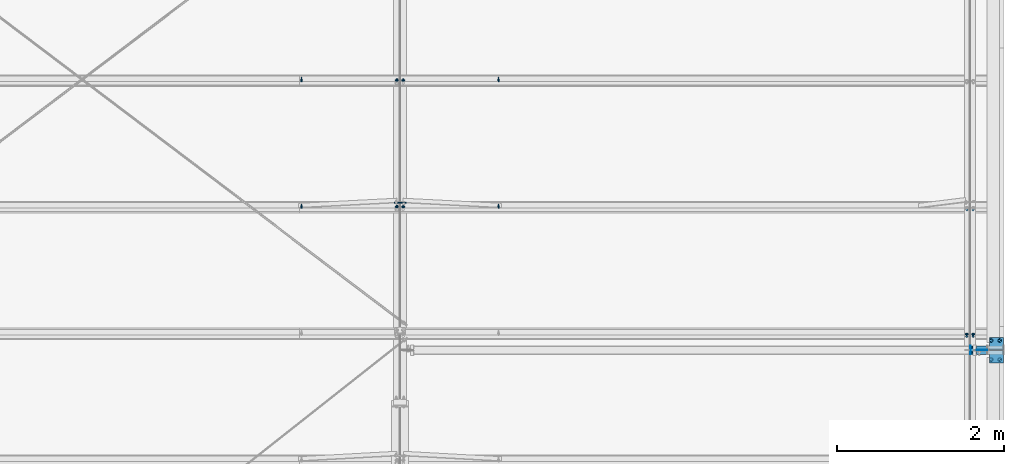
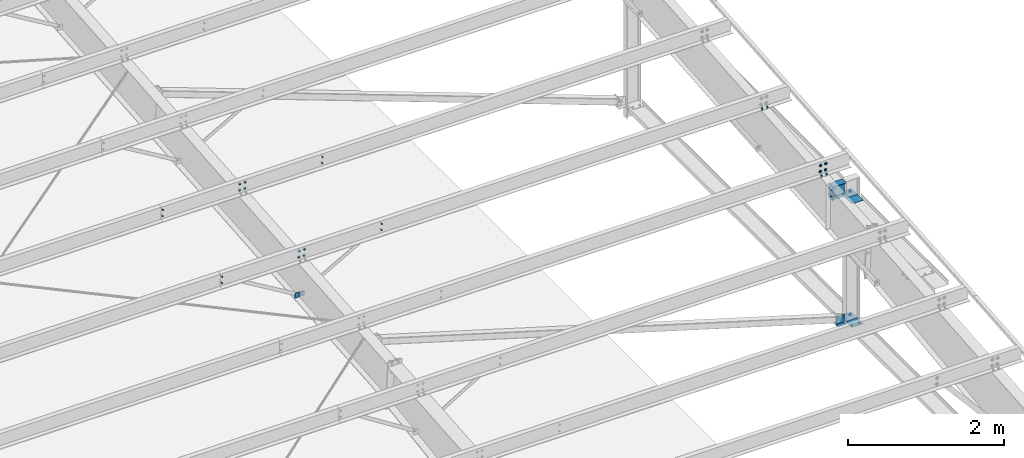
# One storey, part 106 of 185: 16 mechanical fasteners, 10 discrete accessories, 7 elements without a shape of their own.
"""IFC2X3 building model written with IfcOpenShell, lengths in millimetres."""

from ifc_helpers import new_model, si_unit, frame, frame_2d, origin_with_axes, origin_2d_with_axis, place, context, subcontext, project, spatial, polyline, circle_curve, parameter, trimmed, segment, composite_curve, rectangle, circle, i_section, outline, extrude, source, transform, mapped, material, type_object, element, aggregate, save


model = new_model("IFC2X3")

# Units and contexts
model_context = context("Model", 3, precision=1e-05, world=origin_with_axes())
body_context = subcontext(model_context, "Body", "Model", "MODEL_VIEW")
ifc_project = project(units=[si_unit("LENGTHUNIT", "METRE", prefix="MILLI"), si_unit("AREAUNIT", "SQUARE_METRE"), si_unit("VOLUMEUNIT", "CUBIC_METRE"), si_unit("MASSUNIT", "GRAM", prefix="KILO"), si_unit("TIMEUNIT", "SECOND"), si_unit("PLANEANGLEUNIT", "RADIAN"), si_unit("SOLIDANGLEUNIT", "STERADIAN"), si_unit("THERMODYNAMICTEMPERATUREUNIT", "DEGREE_CELSIUS"), si_unit("LUMINOUSINTENSITYUNIT", "LUMEN")], contexts=[model_context])

# Site, building, storey
site_placement = place(None, origin_with_axes())
site = spatial("IfcSite", under=ifc_project, at=site_placement, Name="Undefined", CompositionType="ELEMENT")
building_placement = place(site_placement, origin_with_axes())
building = spatial("IfcBuilding", under=site, at=building_placement, Name="Undefined", CompositionType="ELEMENT")
storey_placement = place(building_placement, origin_with_axes())
storey = spatial("IfcBuildingStorey", under=building, at=storey_placement, Name="Undefined", CompositionType="ELEMENT", Elevation=0.0)

# Assembly, discrete accessories
assembly_1_placement = place(storey_placement, origin_with_axes())
assembly_1 = element("IfcElementAssembly", 1, at=assembly_1_placement, inside=storey, Name="Steel Assembly", AssemblyPlace="NOTDEFINED", PredefinedType="RIGID_FRAME")
ifc_material_1 = material(Name="STEEL/55")
discrete_accessory_type_1 = type_object("IfcDiscreteAccessoryType", Name="XP-38")
discrete_accessory_1_placement = place(assembly_1_placement, frame((44868.703125, 6397.70278800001, 6098.38125), z_axis=(-1.0, 0.0, 0.0), x_axis=(0.0, -1.0, 0.0)))
discrete_accessory_1 = element("IfcDiscreteAccessory", 2, at=discrete_accessory_1_placement, type_object=discrete_accessory_type_1, material=ifc_material_1, Name="XP-38", ObjectType="PL3/16\"X5 7/8\"", context=body_context, shape_type="SweptSolid", body=[
    extrude(rectangle(XDim=4.7625, YDim=168.275, at=origin_2d_with_axis()), frame((149.224999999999, 0.0, 0.0), z_axis=(-1.0, 0.0, 0.0), x_axis=(0.0, -1.0, 0.0)), (0.0, 0.0, 1.0), 149.2),
])
discrete_accessory_2_placement = place(assembly_1_placement, frame((44868.703125, 6403.89721200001, 6098.38125), z_axis=(-1.0, 0.0, 0.0), x_axis=(0.0, 1.0, 0.0)))
discrete_accessory_2 = element("IfcDiscreteAccessory", 3, at=discrete_accessory_2_placement, type_object=discrete_accessory_type_1, material=ifc_material_1, Name="XP-38", ObjectType="PL3/16\"X5 7/8\"", context=body_context, shape_type="SweptSolid", body=[
    extrude(rectangle(XDim=4.7625, YDim=168.275, at=origin_2d_with_axis()), frame((149.224999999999, 0.0, 0.0), z_axis=(-1.0, 0.0, 0.0), x_axis=(0.0, -1.0, 0.0)), (0.0, 0.0, 1.0), 149.2),
])
discrete_accessory_3_placement = place(assembly_1_placement, frame((44868.7031250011, 6397.70278800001, 4167.98125000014), z_axis=(-1.0, 0.0, 0.0), x_axis=(0.0, -1.0, 0.0)))
discrete_accessory_3 = element("IfcDiscreteAccessory", 4, at=discrete_accessory_3_placement, type_object=discrete_accessory_type_1, material=ifc_material_1, Name="XP-38", ObjectType="PL3/16\"X5 7/8\"", context=body_context, shape_type="SweptSolid", body=[
    extrude(rectangle(XDim=4.7625, YDim=168.275, at=origin_2d_with_axis()), frame((149.224999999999, 0.0, 0.0), z_axis=(-1.0, 0.0, 0.0), x_axis=(0.0, -1.0, 0.0)), (0.0, 0.0, 1.0), 149.2),
])
discrete_accessory_4_placement = place(assembly_1_placement, frame((44868.7031250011, 6403.89721200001, 4167.98125000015), z_axis=(-1.0, 0.0, 0.0), x_axis=(0.0, 1.0, 0.0)))
discrete_accessory_4 = element("IfcDiscreteAccessory", 5, at=discrete_accessory_4_placement, type_object=discrete_accessory_type_1, material=ifc_material_1, Name="XP-38", ObjectType="PL3/16\"X5 7/8\"", context=body_context, shape_type="SweptSolid", body=[
    extrude(rectangle(XDim=4.7625, YDim=168.275, at=origin_2d_with_axis()), frame((149.224999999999, 0.0, 0.0), z_axis=(-1.0, 0.0, 0.0), x_axis=(0.0, -1.0, 0.0)), (0.0, 0.0, 1.0), 149.2),
])
discrete_accessory_type_2 = type_object("IfcDiscreteAccessoryType", Name="Stiff")
discrete_accessory_5_placement = place(assembly_1_placement, frame((44694.475, 6451.6, 4167.98125), z_axis=(-1.0, 0.0, 0.0), x_axis=(0.0, -1.0, 0.0)))
discrete_accessory_5 = element("IfcDiscreteAccessory", 6, at=discrete_accessory_5_placement, type_object=discrete_accessory_type_2, material=ifc_material_1, Name="Stiff", ObjectType="FL1/4\"X4\"", context=body_context, shape_type="SweptSolid", body=[
    extrude(rectangle(XDim=6.35, YDim=127.0, at=origin_2d_with_axis()), frame((101.599998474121, 0.0, 0.0), z_axis=(-1.0, 0.0, 0.0), x_axis=(0.0, -1.0, 0.0)), (0.0, 0.0, 1.0), 101.6),
])

# Assembly, mechanical fasteners
assembly_2_placement = place(storey_placement, origin_with_axes())
assembly_2 = element("IfcElementAssembly", 7, at=assembly_2_placement, inside=storey, Name="Steel Assembly", AssemblyPlace="NOTDEFINED", PredefinedType="RIGID_FRAME")
ifc_material_2 = material(Name="Undefined")
discrete_accessory_type_3 = type_object("IfcDiscreteAccessoryType", Name="Bolt assembly")
shared_shape_1 = source(origin_with_axes(), body_context, "Body", "SweptSolid", [
    extrude(circle(Radius=7.14374971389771, at=origin_2d_with_axis()), frame((0.0, -1.59000001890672, 0.0), z_axis=(0.0, 1.0, 0.0), x_axis=(1.0, 0.0, 0.0)), (0.0, 0.0, 1.0), 3.3),
    extrude(circle(Radius=13.4937496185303, at=origin_2d_with_axis()), frame((0.0, -5.5587500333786, 0.0), z_axis=(0.0, 1.0, 0.0), x_axis=(1.0, 0.0, 0.0)), (0.0, 0.0, 1.0), 4.0),
    extrude(circle(Radius=22.2250003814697, at=origin_2d_with_axis()), frame((0.0, 1.5900000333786, 0.0), z_axis=(0.0, 1.0, 0.0), x_axis=(1.0, 0.0, 0.0)), (0.0, 0.0, 1.0), 7.9),
    extrude(outline(polyline([(12.8316099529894, 0.0), (6.4158049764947, 11.1125001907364), (-6.4158049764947, 11.1125001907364), (-12.8316099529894, 0.0), (-6.4158049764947, -11.1125001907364), (6.4158049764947, -11.1125001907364), (12.8316099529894, 0.0)])), frame((0.0, 9.5275000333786, 0.0), z_axis=(0.0, 1.0, 0.0), x_axis=(1.0, 0.0, 0.0)), (0.0, 0.0, 1.0), 12.3),
])
mechanical_fastener_1_placement = place(assembly_2_placement, frame((44513.5, 6590.05757436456, 6594.19538193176), z_axis=(-1.0, 0.0, 0.0), x_axis=(0.0, 0.0830454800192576, -0.996545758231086)))
mechanical_fastener_1 = element("IfcMechanicalFastener", 8, at=mechanical_fastener_1_placement, type_object=discrete_accessory_type_3, material=ifc_material_2, Name="Bolt assembly", NominalDiameter=12.6999998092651, NominalLength=38.0999984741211, context=body_context, shape_type="MappedRepresentation", body=[
    mapped(shared_shape_1, transform((0.0, 0.0, 0.0))),
    mapped(shared_shape_1, transform((101.599998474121, 0.0, 0.0))),
])
mechanical_fastener_2_placement = place(assembly_2_placement, frame((44589.7, 6590.05757436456, 6594.19538193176), z_axis=(-1.0, 0.0, 0.0), x_axis=(0.0, 0.0830454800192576, -0.996545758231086)))
mechanical_fastener_2 = element("IfcMechanicalFastener", 9, at=mechanical_fastener_2_placement, type_object=discrete_accessory_type_3, material=ifc_material_2, Name="Bolt assembly", NominalDiameter=12.6999998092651, NominalLength=38.0999984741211, context=body_context, shape_type="MappedRepresentation", body=[
    mapped(shared_shape_1, transform((0.0, 0.0, 0.0))),
    mapped(shared_shape_1, transform((101.599998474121, 0.0, 0.0))),
])

# Assembly, mechanical fastener
assembly_3_placement = place(storey_placement, origin_with_axes())
assembly_3 = element("IfcElementAssembly", 10, at=assembly_3_placement, inside=storey, Name="Steel Assembly", AssemblyPlace="NOTDEFINED", PredefinedType="RIGID_FRAME")
mechanical_fastener_3_placement = place(assembly_3_placement, frame((37757.1, 8108.79330990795, 6720.75669348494), z_axis=(1.0, 0.0, 0.0), x_axis=(0.0, 0.0830454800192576, -0.996545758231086)))
mechanical_fastener_3 = element("IfcMechanicalFastener", 11, at=mechanical_fastener_3_placement, type_object=discrete_accessory_type_3, material=ifc_material_2, Name="Bolt assembly", NominalDiameter=12.6999998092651, NominalLength=38.0999984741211, context=body_context, shape_type="MappedRepresentation", body=[
    mapped(shared_shape_1, transform((0.0, 0.0, 0.0))),
    mapped(shared_shape_1, transform((101.599998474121, 0.0, 0.0))),
])
aggregate(assembly_3, [mechanical_fastener_3])

assembly_4_placement = place(storey_placement, origin_with_axes())
assembly_4 = element("IfcElementAssembly", 12, at=assembly_4_placement, inside=storey, Name="Steel Assembly", AssemblyPlace="NOTDEFINED", PredefinedType="RIGID_FRAME")
mechanical_fastener_4_placement = place(assembly_4_placement, frame((37680.9, 8108.79330990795, 6720.75669348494), z_axis=(1.0, 0.0, 0.0), x_axis=(0.0, 0.0830454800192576, -0.996545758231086)))
mechanical_fastener_4 = element("IfcMechanicalFastener", 13, at=mechanical_fastener_4_placement, type_object=discrete_accessory_type_3, material=ifc_material_2, Name="Bolt assembly", NominalDiameter=12.6999998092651, NominalLength=38.0999984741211, context=body_context, shape_type="MappedRepresentation", body=[
    mapped(shared_shape_1, transform((0.0, 0.0, 0.0))),
    mapped(shared_shape_1, transform((101.599998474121, 0.0, 0.0))),
])

assembly_5_placement = place(storey_placement, origin_with_axes())
assembly_5 = element("IfcElementAssembly", 14, at=assembly_5_placement, inside=storey, Name="Steel Assembly", AssemblyPlace="NOTDEFINED", PredefinedType="RIGID_FRAME")
mechanical_fastener_5_placement = place(assembly_5_placement, frame((37757.1, 9627.52904545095, 6847.31800503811), z_axis=(1.0, 0.0, 0.0), x_axis=(0.0, 0.0830454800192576, -0.996545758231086)))
mechanical_fastener_5 = element("IfcMechanicalFastener", 15, at=mechanical_fastener_5_placement, type_object=discrete_accessory_type_3, material=ifc_material_2, Name="Bolt assembly", NominalDiameter=12.6999998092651, NominalLength=38.0999984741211, context=body_context, shape_type="MappedRepresentation", body=[
    mapped(shared_shape_1, transform((0.0, 0.0, 0.0))),
    mapped(shared_shape_1, transform((101.599998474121, 0.0, 0.0))),
])
aggregate(assembly_5, [mechanical_fastener_5])

assembly_6_placement = place(storey_placement, origin_with_axes())
assembly_6 = element("IfcElementAssembly", 16, at=assembly_6_placement, inside=storey, Name="Steel Assembly", AssemblyPlace="NOTDEFINED", PredefinedType="RIGID_FRAME")
mechanical_fastener_6_placement = place(assembly_6_placement, frame((37680.9, 9627.52904545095, 6847.31800503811), z_axis=(1.0, 0.0, 0.0), x_axis=(0.0, 0.0830454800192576, -0.996545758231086)))
mechanical_fastener_6 = element("IfcMechanicalFastener", 17, at=mechanical_fastener_6_placement, type_object=discrete_accessory_type_3, material=ifc_material_2, Name="Bolt assembly", NominalDiameter=12.6999998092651, NominalLength=38.0999984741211, context=body_context, shape_type="MappedRepresentation", body=[
    mapped(shared_shape_1, transform((0.0, 0.0, 0.0))),
    mapped(shared_shape_1, transform((101.599998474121, 0.0, 0.0))),
])

# Discrete accessory
discrete_accessory_type_4 = type_object("IfcDiscreteAccessoryType", Name="PLATE")
discrete_accessory_6_placement = place(assembly_1_placement, frame((44757.975, 6400.8, 4234.65624999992), z_axis=(0.0, 0.0, 1.0), x_axis=(-1.0, 0.0, 0.0)))
discrete_accessory_6 = element("IfcDiscreteAccessory", 18, at=discrete_accessory_6_placement, type_object=discrete_accessory_type_4, material=ifc_material_1, Name="PLATE", ObjectType="FL1/4\"X5\"", context=body_context, shape_type="SweptSolid", body=[
    extrude(rectangle(XDim=6.35, YDim=127.0, at=origin_2d_with_axis()), frame((127.000000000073, 3.63797855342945e-12, 7.27595761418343e-12), z_axis=(-1.0, 0.0, 0.0), x_axis=(0.0, -1.0, 0.0)), (0.0, 0.0, 1.0), 127.0),
])

discrete_accessory_7_placement = place(assembly_1_placement, frame((44558.148438, 6400.8, 6389.6875), z_axis=(0.0, 1.0, 0.0), x_axis=(0.0, 0.0, -1.0)))
discrete_accessory_7 = element("IfcDiscreteAccessory", 19, at=discrete_accessory_7_placement, type_object=discrete_accessory_type_4, material=ifc_material_1, Name="PLATE", ObjectType="FL3/8\"X4\"", context=body_context, shape_type="SweptSolid", body=[
    extrude(rectangle(XDim=9.525, YDim=101.6, at=origin_2d_with_axis()), frame((225.424999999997, 0.0, 0.0), z_axis=(-1.0, 0.0, 0.0), x_axis=(0.0, -1.0, 0.0)), (0.0, 0.0, 1.0), 225.4),
])

# Assembly, discrete accessories
assembly_7_placement = place(storey_placement, origin_with_axes())
assembly_7 = element("IfcElementAssembly", 20, at=assembly_7_placement, inside=storey, Name="Steel Assembly", AssemblyPlace="NOTDEFINED", PredefinedType="RIGID_FRAME")
discrete_accessory_type_5 = type_object("IfcDiscreteAccessoryType", Name="FLANGE BRACE FLIP")
discrete_accessory_8_placement = place(assembly_7_placement, frame((37720.70815, 8167.47255645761, 5996.03869125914), z_axis=(0.0, -0.0830454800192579, 0.996545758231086), x_axis=(1.0, 0.0, 0.0)))
discrete_accessory_8 = element("IfcDiscreteAccessory", 21, at=discrete_accessory_8_placement, type_object=discrete_accessory_type_5, material=ifc_material_1, Name="FLANGE BRACE FLIP", ObjectType="PL1/8\"X2 3/4\"", context=body_context, shape_type="SweptSolid", body=[
    extrude(rectangle(XDim=3.416, YDim=85.725, at=origin_2d_with_axis()), frame((69.8499999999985, 0.0, 0.0), z_axis=(-1.0, 0.0, 0.0), x_axis=(0.0, -1.0, 0.0)), (0.0, 0.0, 1.0), 69.8),
])
discrete_accessory_9_placement = place(assembly_7_placement, frame((37717.29185, 8167.47255645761, 5996.03869125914), z_axis=(0.0, -0.0830454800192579, 0.996545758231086), x_axis=(-1.0, 0.0, 0.0)))
discrete_accessory_9 = element("IfcDiscreteAccessory", 22, at=discrete_accessory_9_placement, type_object=discrete_accessory_type_5, material=ifc_material_1, Name="FLANGE BRACE FLIP", ObjectType="PL1/8\"X2 3/4\"", context=body_context, shape_type="SweptSolid", body=[
    extrude(rectangle(XDim=3.416, YDim=85.725, at=origin_2d_with_axis()), frame((69.8499999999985, 0.0, 0.0), z_axis=(-1.0, 0.0, 0.0), x_axis=(0.0, -1.0, 0.0)), (0.0, 0.0, 1.0), 69.8),
])
aggregate(assembly_7, [discrete_accessory_8, discrete_accessory_9])

# Mechanical fastener
shared_shape_2 = source(origin_with_axes(), body_context, "Body", "SweptSolid", [
    extrude(circle(Radius=7.14374971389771, at=origin_2d_with_axis()), frame((0.0, -1.69000003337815, 0.0), z_axis=(0.0, 1.0, 0.0), x_axis=(1.0, 0.0, 0.0)), (0.0, 0.0, 1.0), 3.3),
    extrude(outline(composite_curve([segment(polyline([(-5.953125, 7.14374971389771), (5.953125, 7.14374971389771)]), True, "CONTINUOUS"), segment(trimmed(circle_curve(frame_2d((5.953125, 0.0), x_axis=(0.0, 1.0)), 7.1), [parameter(0.0)], [parameter(3.14159265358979)], False, "PARAMETER"), True, "CONTINUOUS"), segment(polyline([(5.953125, -7.14374971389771), (-5.953125, -7.14374971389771)]), True, "CONTINUOUS"), segment(trimmed(circle_curve(frame_2d((-5.953125, 0.0), x_axis=(0.0, -1.0)), 7.1), [parameter(0.0)], [parameter(3.14159265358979)], False, "PARAMETER"), True, "DISCONTINUOUS")], self_intersect=False)), frame((0.0, -4.66250000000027, 0.0), z_axis=(0.0, 1.0, 0.0), x_axis=(1.0, 0.0, 0.0)), (0.0, 0.0, 1.0), 4.8),
    extrude(outline(polyline([(10.9985221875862, 0.0), (5.4992610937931, 9.52499961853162), (-5.4992610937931, 9.52499961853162), (-10.9985221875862, 0.0), (-5.4992610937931, -9.52499961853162), (5.4992610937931, -9.52499961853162), (10.9985221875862, 0.0)])), frame((0.0, -18.2562496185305, 0.0), z_axis=(0.0, 1.0, 0.0), x_axis=(1.0, 0.0, 0.0)), (0.0, 0.0, 1.0), 9.5),
    extrude(circle(Radius=6.34999990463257, at=origin_2d_with_axis()), frame((0.0, -8.73125000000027, 0.0), z_axis=(0.0, 1.0, 0.0), x_axis=(1.0, 0.0, 0.0)), (0.0, 0.0, 1.0), 38.1),
    extrude(circle(Radius=13.4937496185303, at=origin_2d_with_axis()), frame((0.0, -8.73125000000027, 0.0), z_axis=(0.0, 1.0, 0.0), x_axis=(1.0, 0.0, 0.0)), (0.0, 0.0, 1.0), 4.0),
    extrude(circle(Radius=22.2250003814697, at=origin_2d_with_axis()), frame((0.0, 1.5900000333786, 0.0), z_axis=(0.0, 1.0, 0.0), x_axis=(1.0, 0.0, 0.0)), (0.0, 0.0, 1.0), 7.9),
    extrude(outline(polyline([(12.8316099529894, 0.0), (6.4158049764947, 11.1125001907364), (-6.4158049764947, 11.1125001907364), (-12.8316099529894, 0.0), (-6.4158049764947, -11.1125001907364), (6.4158049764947, -11.1125001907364), (12.8316099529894, 0.0)])), frame((0.0, 9.5275000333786, 0.0), z_axis=(0.0, 1.0, 0.0), x_axis=(1.0, 0.0, 0.0)), (0.0, 0.0, 1.0), 12.3),
])
mechanical_fastener_7_placement = place(assembly_1_placement, frame((44907.2, 6515.10000000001, 6096.0), z_axis=(0.0, -1.0, 0.0), x_axis=(-1.0, 0.0, 0.0)))
mechanical_fastener_7 = element("IfcMechanicalFastener", 23, at=mechanical_fastener_7_placement, type_object=discrete_accessory_type_3, material=ifc_material_2, Name="Bolt assembly", NominalDiameter=12.6999998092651, NominalLength=38.0999984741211, context=body_context, shape_type="MappedRepresentation", body=[
    mapped(shared_shape_2, transform((0.0, 0.0, 0.0))),
    mapped(shared_shape_2, transform((101.599998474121, 0.0, 0.0))),
])

shared_shape_3 = source(origin_with_axes(), body_context, "Body", "SweptSolid", [
    extrude(circle(Radius=7.14374971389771, at=origin_2d_with_axis()), frame((0.0, -1.69000003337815, 0.0), z_axis=(0.0, 1.0, 0.0), x_axis=(1.0, 0.0, 0.0)), (0.0, 0.0, 1.0), 3.3),
    extrude(outline(composite_curve([segment(polyline([(-5.953125, 7.14374971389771), (5.953125, 7.14374971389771)]), True, "CONTINUOUS"), segment(trimmed(circle_curve(frame_2d((5.953125, 0.0), x_axis=(0.0, 1.0)), 7.1), [parameter(0.0)], [parameter(3.14159265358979)], False, "PARAMETER"), True, "CONTINUOUS"), segment(polyline([(5.953125, -7.14374971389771), (-5.953125, -7.14374971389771)]), True, "CONTINUOUS"), segment(trimmed(circle_curve(frame_2d((-5.953125, 0.0), x_axis=(0.0, -1.0)), 7.1), [parameter(0.0)], [parameter(3.14159265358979)], False, "PARAMETER"), True, "DISCONTINUOUS")], self_intersect=False)), frame((0.0, -4.66250000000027, 0.0), z_axis=(0.0, 1.0, 0.0), x_axis=(1.0, 0.0, 0.0)), (0.0, 0.0, 1.0), 4.8),
    extrude(outline(polyline([(10.9985221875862, 0.0), (5.4992610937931, 9.52499961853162), (-5.4992610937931, 9.52499961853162), (-10.9985221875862, 0.0), (-5.4992610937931, -9.52499961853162), (5.4992610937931, -9.52499961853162), (10.9985221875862, 0.0)])), frame((0.0, -18.2562496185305, 0.0), z_axis=(0.0, 1.0, 0.0), x_axis=(1.0, 0.0, 0.0)), (0.0, 0.0, 1.0), 9.5),
    extrude(circle(Radius=6.34999990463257, at=origin_2d_with_axis()), frame((0.0, -8.73125000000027, 0.0), z_axis=(0.0, 1.0, 0.0), x_axis=(1.0, 0.0, 0.0)), (0.0, 0.0, 1.0), 38.1),
    extrude(circle(Radius=13.4937496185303, at=origin_2d_with_axis()), frame((0.0, -8.73125000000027, 0.0), z_axis=(0.0, 1.0, 0.0), x_axis=(1.0, 0.0, 0.0)), (0.0, 0.0, 1.0), 4.0),
    extrude(circle(Radius=22.2250003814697, at=origin_2d_with_axis()), frame((0.0, 1.5900000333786, 0.0), z_axis=(0.0, 1.0, 0.0), x_axis=(1.0, 0.0, 0.0)), (0.0, 0.0, 1.0), 7.9),
    extrude(outline(polyline([(12.8316099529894, 0.0), (6.4158049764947, 11.1125001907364), (-6.4158049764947, 11.1125001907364), (-12.8316099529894, 0.0), (-6.4158049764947, -11.1125001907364), (6.4158049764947, -11.1125001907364), (12.8316099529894, 0.0)])), frame((0.0, 9.5275000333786, 0.0), z_axis=(0.0, 1.0, 0.0), x_axis=(1.0, 0.0, 0.0)), (0.0, 0.0, 1.0), 12.3),
])
mechanical_fastener_8_placement = place(assembly_1_placement, frame((44907.2, 6286.50000000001, 4165.6), z_axis=(0.0, -1.0, 0.0), x_axis=(-1.0, 0.0, 0.0)))
mechanical_fastener_8 = element("IfcMechanicalFastener", 24, at=mechanical_fastener_8_placement, type_object=discrete_accessory_type_3, material=ifc_material_2, Name="Bolt assembly", NominalDiameter=12.6999998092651, NominalLength=38.0999984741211, context=body_context, shape_type="MappedRepresentation", body=[
    mapped(shared_shape_3, transform((0.0, 0.0, 0.0))),
    mapped(shared_shape_3, transform((101.599998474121, 0.0, 0.0))),
])

shared_shape_4 = source(origin_with_axes(), body_context, "Body", "SweptSolid", [
    extrude(circle(Radius=7.14374971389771, at=origin_2d_with_axis()), frame((0.0, -1.69000003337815, 0.0), z_axis=(0.0, 1.0, 0.0), x_axis=(1.0, 0.0, 0.0)), (0.0, 0.0, 1.0), 3.3),
    extrude(outline(composite_curve([segment(polyline([(-5.953125, 7.14374971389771), (5.953125, 7.14374971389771)]), True, "CONTINUOUS"), segment(trimmed(circle_curve(frame_2d((5.953125, 0.0), x_axis=(0.0, 1.0)), 7.1), [parameter(0.0)], [parameter(3.14159265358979)], False, "PARAMETER"), True, "CONTINUOUS"), segment(polyline([(5.953125, -7.14374971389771), (-5.953125, -7.14374971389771)]), True, "CONTINUOUS"), segment(trimmed(circle_curve(frame_2d((-5.953125, 0.0), x_axis=(0.0, -1.0)), 7.1), [parameter(0.0)], [parameter(3.14159265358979)], False, "PARAMETER"), True, "DISCONTINUOUS")], self_intersect=False)), frame((0.0, -4.66250000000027, 0.0), z_axis=(0.0, 1.0, 0.0), x_axis=(1.0, 0.0, 0.0)), (0.0, 0.0, 1.0), 4.8),
    extrude(outline(polyline([(10.9985221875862, 0.0), (5.4992610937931, 9.52499961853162), (-5.4992610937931, 9.52499961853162), (-10.9985221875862, 0.0), (-5.4992610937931, -9.52499961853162), (5.4992610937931, -9.52499961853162), (10.9985221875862, 0.0)])), frame((0.0, -18.2562496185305, 0.0), z_axis=(0.0, 1.0, 0.0), x_axis=(1.0, 0.0, 0.0)), (0.0, 0.0, 1.0), 9.5),
    extrude(circle(Radius=6.34999990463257, at=origin_2d_with_axis()), frame((0.0, -8.73125000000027, 0.0), z_axis=(0.0, 1.0, 0.0), x_axis=(1.0, 0.0, 0.0)), (0.0, 0.0, 1.0), 38.1),
    extrude(circle(Radius=13.4937496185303, at=origin_2d_with_axis()), frame((0.0, -8.73125000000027, 0.0), z_axis=(0.0, 1.0, 0.0), x_axis=(1.0, 0.0, 0.0)), (0.0, 0.0, 1.0), 4.0),
    extrude(circle(Radius=22.2250003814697, at=origin_2d_with_axis()), frame((0.0, 1.5900000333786, 0.0), z_axis=(0.0, 1.0, 0.0), x_axis=(1.0, 0.0, 0.0)), (0.0, 0.0, 1.0), 7.9),
    extrude(outline(polyline([(12.8316099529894, 0.0), (6.4158049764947, 11.1125001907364), (-6.4158049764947, 11.1125001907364), (-12.8316099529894, 0.0), (-6.4158049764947, -11.1125001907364), (6.4158049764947, -11.1125001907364), (12.8316099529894, 0.0)])), frame((0.0, 9.5275000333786, 0.0), z_axis=(0.0, 1.0, 0.0), x_axis=(1.0, 0.0, 0.0)), (0.0, 0.0, 1.0), 12.3),
])
mechanical_fastener_9_placement = place(assembly_1_placement, frame((44907.2, 6515.10000000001, 4165.6), z_axis=(0.0, -1.0, 0.0), x_axis=(-1.0, 0.0, 0.0)))
mechanical_fastener_9 = element("IfcMechanicalFastener", 25, at=mechanical_fastener_9_placement, type_object=discrete_accessory_type_3, material=ifc_material_2, Name="Bolt assembly", NominalDiameter=12.6999998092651, NominalLength=38.0999984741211, context=body_context, shape_type="MappedRepresentation", body=[
    mapped(shared_shape_4, transform((0.0, 0.0, 0.0))),
    mapped(shared_shape_4, transform((101.599998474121, 0.0, 0.0))),
])

shared_shape_5 = source(origin_with_axes(), body_context, "Body", "SweptSolid", [
    extrude(circle(Radius=7.14374971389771, at=origin_2d_with_axis()), frame((0.0, -0.1, 0.0), z_axis=(0.0, 1.0, 0.0), x_axis=(1.0, 0.0, 0.0)), (0.0, 0.0, 1.0), 6.5),
    extrude(circle(Radius=7.14374971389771, at=origin_2d_with_axis()), frame((0.0, -3.08000006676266, 0.0), z_axis=(0.0, 1.0, 0.0), x_axis=(1.0, 0.0, 0.0)), (0.0, 0.0, 1.0), 3.2),
    extrude(outline(polyline([(10.9985221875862, 0.0), (5.4992610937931, 9.52499961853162), (-5.4992610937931, 9.52499961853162), (-10.9985221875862, 0.0), (-5.4992610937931, -9.52499961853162), (5.4992610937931, -9.52499961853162), (10.9985221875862, 0.0)])), frame((0.0, -16.6737496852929, 0.0), z_axis=(0.0, 1.0, 0.0), x_axis=(1.0, 0.0, 0.0)), (0.0, 0.0, 1.0), 9.5),
    extrude(circle(Radius=6.34999990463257, at=origin_2d_with_axis()), frame((0.0, -7.14875006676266, 0.0), z_axis=(0.0, 1.0, 0.0), x_axis=(1.0, 0.0, 0.0)), (0.0, 0.0, 1.0), 38.1),
    extrude(circle(Radius=13.4937496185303, at=origin_2d_with_axis()), frame((0.0, -7.14875006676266, 0.0), z_axis=(0.0, 1.0, 0.0), x_axis=(1.0, 0.0, 0.0)), (0.0, 0.0, 1.0), 4.0),
    extrude(outline(polyline([(12.8316099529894, 0.0), (6.4158049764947, 11.1125001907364), (-6.4158049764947, 11.1125001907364), (-12.8316099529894, 0.0), (-6.4158049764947, -11.1125001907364), (6.4158049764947, -11.1125001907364), (12.8316099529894, 0.0)])), frame((0.0, 6.35000000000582, 0.0), z_axis=(0.0, 1.0, 0.0), x_axis=(1.0, 0.0, 0.0)), (0.0, 0.0, 1.0), 12.3),
])
mechanical_fastener_10_placement = place(assembly_2_placement, frame((44551.6, 6564.74531210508, 6439.15777559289), z_axis=(1.0, 0.0, 0.0), x_axis=(0.0, -0.996545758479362, -0.0830454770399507)))
mechanical_fastener_10 = element("IfcMechanicalFastener", 26, at=mechanical_fastener_10_placement, type_object=discrete_accessory_type_3, material=ifc_material_2, Name="Bolt assembly", NominalDiameter=12.6999998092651, NominalLength=38.0999984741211, context=body_context, shape_type="MappedRepresentation", body=[
    mapped(shared_shape_5, transform((0.0, 0.0, -38.0999984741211))),
    mapped(shared_shape_5, transform((0.0, 0.0, 38.0999984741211))),
])

aggregate(assembly_2, [mechanical_fastener_10, mechanical_fastener_1, mechanical_fastener_2])

mechanical_fastener_11_placement = place(assembly_4_placement, frame((44551.6, 8083.48104764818, 6565.71908714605), z_axis=(1.0, 0.0, 0.0), x_axis=(0.0, -0.996545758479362, -0.0830454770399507)))
mechanical_fastener_11 = element("IfcMechanicalFastener", 27, at=mechanical_fastener_11_placement, type_object=discrete_accessory_type_3, material=ifc_material_2, Name="Bolt assembly", NominalDiameter=12.6999998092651, NominalLength=38.0999984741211, context=body_context, shape_type="MappedRepresentation", body=[
    mapped(shared_shape_5, transform((0.0, 0.0, -38.0999984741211))),
    mapped(shared_shape_5, transform((0.0, 0.0, 38.0999984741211))),
])

shared_shape_6 = source(origin_with_axes(), body_context, "Body", "SweptSolid", [
    extrude(circle(Radius=7.14374971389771, at=origin_2d_with_axis()), frame((0.0, -1.4900000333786, 0.0), z_axis=(0.0, 1.0, 0.0), x_axis=(1.0, 0.0, 0.0)), (0.0, 0.0, 1.0), 3.2),
    extrude(circle(Radius=7.14374971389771, at=origin_2d_with_axis()), frame((0.0, -1.69000003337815, 0.0), z_axis=(0.0, 1.0, 0.0), x_axis=(1.0, 0.0, 0.0)), (0.0, 0.0, 1.0), 3.3),
    extrude(outline(polyline([(10.9985221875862, 0.0), (5.4992610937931, 9.52499961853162), (-5.4992610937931, 9.52499961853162), (-10.9985221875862, 0.0), (-5.4992610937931, -9.52499961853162), (5.4992610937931, -9.52499961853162), (10.9985221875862, 0.0)])), frame((0.0, -11.1149996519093, 0.0), z_axis=(0.0, 1.0, 0.0), x_axis=(1.0, 0.0, 0.0)), (0.0, 0.0, 1.0), 9.5),
    extrude(circle(Radius=6.34999990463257, at=origin_2d_with_axis()), frame((0.0, -1.59000001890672, 0.0), z_axis=(0.0, 1.0, 0.0), x_axis=(1.0, 0.0, 0.0)), (0.0, 0.0, 1.0), 38.1),
    extrude(outline(polyline([(12.8316099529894, 0.0), (6.4158049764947, 11.1125001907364), (-6.4158049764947, 11.1125001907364), (-12.8316099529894, 0.0), (-6.4158049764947, -11.1125001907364), (6.4158049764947, -11.1125001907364), (12.8316099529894, 0.0)])), frame((0.0, 1.5900000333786, 0.0), z_axis=(0.0, 1.0, 0.0), x_axis=(1.0, 0.0, 0.0)), (0.0, 0.0, 1.0), 12.3),
])
mechanical_fastener_12_placement = place(assembly_4_placement, frame((38900.1, 8108.79330990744, 6720.75669347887), z_axis=(1.0, 0.0, 0.0), x_axis=(0.0, 0.0830454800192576, -0.996545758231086)))
mechanical_fastener_12 = element("IfcMechanicalFastener", 28, at=mechanical_fastener_12_placement, type_object=discrete_accessory_type_3, material=ifc_material_2, Name="Bolt assembly", NominalDiameter=12.6999998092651, NominalLength=38.0999984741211, context=body_context, shape_type="MappedRepresentation", body=[
    mapped(shared_shape_6, transform((0.0, 0.0, 0.0))),
    mapped(shared_shape_6, transform((101.599998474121, 0.0, 0.0))),
])

mechanical_fastener_13_placement = place(assembly_4_placement, frame((36537.9, 8108.79330990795, 6720.75669348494), z_axis=(1.0, 0.0, 0.0), x_axis=(0.0, 0.0830454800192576, -0.996545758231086)))
mechanical_fastener_13 = element("IfcMechanicalFastener", 29, at=mechanical_fastener_13_placement, type_object=discrete_accessory_type_3, material=ifc_material_2, Name="Bolt assembly", NominalDiameter=12.6999998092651, NominalLength=38.0999984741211, context=body_context, shape_type="MappedRepresentation", body=[
    mapped(shared_shape_6, transform((0.0, 0.0, 0.0))),
    mapped(shared_shape_6, transform((101.599998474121, 0.0, 0.0))),
])

aggregate(assembly_4, [mechanical_fastener_11, mechanical_fastener_4, mechanical_fastener_12, mechanical_fastener_13])

mechanical_fastener_14_placement = place(assembly_6_placement, frame((38900.1, 9627.52904545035, 6847.31800503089), z_axis=(1.0, 0.0, 0.0), x_axis=(0.0, 0.0830454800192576, -0.996545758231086)))
mechanical_fastener_14 = element("IfcMechanicalFastener", 30, at=mechanical_fastener_14_placement, type_object=discrete_accessory_type_3, material=ifc_material_2, Name="Bolt assembly", NominalDiameter=12.6999998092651, NominalLength=38.0999984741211, context=body_context, shape_type="MappedRepresentation", body=[
    mapped(shared_shape_6, transform((0.0, 0.0, 0.0))),
    mapped(shared_shape_6, transform((101.599998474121, 0.0, 0.0))),
])

mechanical_fastener_15_placement = place(assembly_6_placement, frame((36537.9, 9627.52904545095, 6847.31800503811), z_axis=(1.0, 0.0, 0.0), x_axis=(0.0, 0.0830454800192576, -0.996545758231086)))
mechanical_fastener_15 = element("IfcMechanicalFastener", 31, at=mechanical_fastener_15_placement, type_object=discrete_accessory_type_3, material=ifc_material_2, Name="Bolt assembly", NominalDiameter=12.6999998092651, NominalLength=38.0999984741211, context=body_context, shape_type="MappedRepresentation", body=[
    mapped(shared_shape_6, transform((0.0, 0.0, 0.0))),
    mapped(shared_shape_6, transform((101.599998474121, 0.0, 0.0))),
])

aggregate(assembly_6, [mechanical_fastener_6, mechanical_fastener_14, mechanical_fastener_15])

shared_shape_7 = source(origin_with_axes(), body_context, "Body", "SweptSolid", [
    extrude(circle(Radius=7.14374971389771, at=origin_2d_with_axis()), frame((0.0, -3.39408799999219, 0.0), z_axis=(0.0, 1.0, 0.0), x_axis=(1.0, 0.0, 0.0)), (0.0, 0.0, 1.0), 3.4),
    extrude(circle(Radius=7.14374971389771, at=origin_2d_with_axis()), frame((0.0, -0.1, 0.0), z_axis=(0.0, 1.0, 0.0), x_axis=(1.0, 0.0, 0.0)), (0.0, 0.0, 1.0), 9.6),
    extrude(outline(polyline([(12.8316099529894, 0.0), (6.4158049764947, 11.1125001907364), (-6.4158049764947, 11.1125001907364), (-12.8316099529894, 0.0), (-6.4158049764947, -11.1125001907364), (6.4158049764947, -11.1125001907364), (12.8316099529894, 0.0)])), frame((0.0, -11.4315879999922, 0.0), z_axis=(0.0, 1.0, 0.0), x_axis=(1.0, 0.0, 0.0)), (0.0, 0.0, 1.0), 7.9),
    extrude(circle(Radius=6.34999990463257, at=origin_2d_with_axis()), frame((0.0, -3.49408799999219, 0.0), z_axis=(0.0, 1.0, 0.0), x_axis=(1.0, 0.0, 0.0)), (0.0, 0.0, 1.0), 50.8),
    extrude(circle(Radius=22.2250003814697, at=origin_2d_with_axis()), frame((0.0, 9.52499999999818, 0.0), z_axis=(0.0, 1.0, 0.0), x_axis=(1.0, 0.0, 0.0)), (0.0, 0.0, 1.0), 7.9),
    extrude(outline(polyline([(12.8316099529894, 0.0), (6.4158049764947, 11.1125001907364), (-6.4158049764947, 11.1125001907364), (-12.8316099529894, 0.0), (-6.4158049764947, -11.1125001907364), (6.4158049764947, -11.1125001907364), (12.8316099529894, 0.0)])), frame((0.0, 17.4624999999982, 0.0), z_axis=(0.0, 1.0, 0.0), x_axis=(1.0, 0.0, 0.0)), (0.0, 0.0, 1.0), 12.3),
])
mechanical_fastener_16_placement = place(assembly_1_placement, frame((44553.385938, 6400.8, 6327.775), z_axis=(0.0, -1.0, 0.0), x_axis=(0.0, 0.0, -1.0)))
mechanical_fastener_16 = element("IfcMechanicalFastener", 32, at=mechanical_fastener_16_placement, type_object=discrete_accessory_type_3, material=ifc_material_2, Name="Bolt assembly", NominalDiameter=12.6999998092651, NominalLength=50.7999992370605, context=body_context, shape_type="MappedRepresentation", body=[
    mapped(shared_shape_7, transform((0.0, 0.0, -28.5750007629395))),
    mapped(shared_shape_7, transform((101.599998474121, 0.0, -28.5750007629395))),
    mapped(shared_shape_7, transform((0.0, 0.0, 28.5750007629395))),
    mapped(shared_shape_7, transform((101.599998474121, 0.0, 28.5750007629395))),
])

# Discrete accessory
discrete_accessory_type_6 = type_object("IfcDiscreteAccessoryType", Name="BEAM")
discrete_accessory_10_placement = place(assembly_1_placement, frame((44757.975, 6400.80000000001, 6276.975), z_axis=(0.0, 0.0, 1.0), x_axis=(-1.0, 0.0, 0.0)))
discrete_accessory_10 = element("IfcDiscreteAccessory", 33, at=discrete_accessory_10_placement, type_object=discrete_accessory_type_6, material=ifc_material_1, Name="BEAM", ObjectType="W8X10", context=body_context, shape_type="SweptSolid", body=[
    extrude(i_section(OverallWidth=101.6, OverallDepth=200.025, WebThickness=4.7625, FlangeThickness=4.7625, FilletRadius=12.7, at=origin_2d_with_axis()), frame((195.064062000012, 0.0, 0.0), z_axis=(-1.0, 0.0, 0.0), x_axis=(0.0, -1.0, 0.0)), (0.0, 0.0, 1.0), 195.1),
])

aggregate(assembly_1, [mechanical_fastener_7, discrete_accessory_1, discrete_accessory_2, mechanical_fastener_8, mechanical_fastener_9, discrete_accessory_3, discrete_accessory_4, mechanical_fastener_16, discrete_accessory_6, discrete_accessory_5, discrete_accessory_7, discrete_accessory_10])

save(model, "model.ifc")
